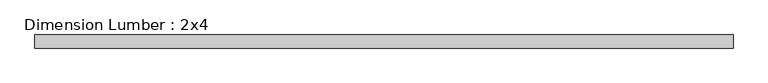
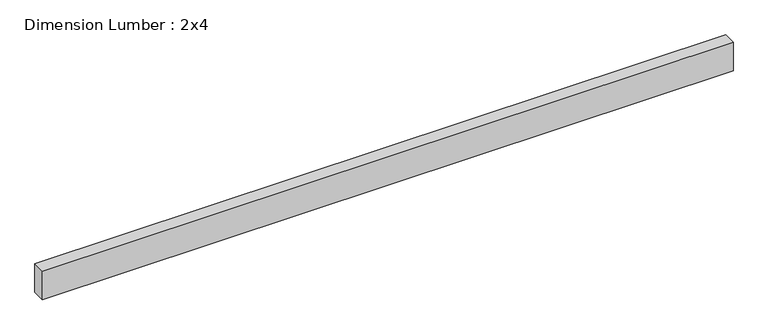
"""IFC4 building model written with IfcOpenShell, lengths in millimetres: beam geometry, Dimension Lumber : 2x4."""

from ifc_helpers import new_model, si_unit, frame, origin, place, context, project, spatial, polyline, outline, extrude, source, transform, mapped, element, save


def dimension_lumber_2x4_39ef6073(model_context):
    return source(origin(), model_context, "Body", "SweptSolid", [
        extrude(outline(polyline([(1014.9038509, 19.05), (1014.9038509, -19.05), (-1014.9038509, -19.05), (-1014.9038509, 19.05), (1014.9038509, 19.05)])), frame((0.0, 0.0, -44.45), z_axis=(0.0, 0.0, 1.0), x_axis=(1.0, 0.0, 0.0)), (0.0, 0.0, 1.0), 88.9),
    ])


if __name__ == "__main__":
    model = new_model("IFC4")
    model_context = context("Model", 3, world=origin())
    ifc_project = project(units=[si_unit("LENGTHUNIT", "METRE", prefix="MILLI")], contexts=[model_context])
    site = spatial("IfcSite", under=ifc_project)
    building = spatial("IfcBuilding", under=site)
    placement = place(None, origin())
    dimension_lumber_2x4_shape = dimension_lumber_2x4_39ef6073(model_context)
    element("IfcBeam", 1, ObjectType="Dimension Lumber : 2x4", at=placement, inside=building, context=model_context, shape_type="MappedRepresentation", body=[
        mapped(dimension_lumber_2x4_shape, transform((0.0, 0.0, 0.0), x_axis=(1.0, 0.0, 0.0), y_axis=(0.0, 1.0, 0.0), z_axis=(0.0, 0.0, 1.0))),
    ])
    save(model, "model.ifc")
